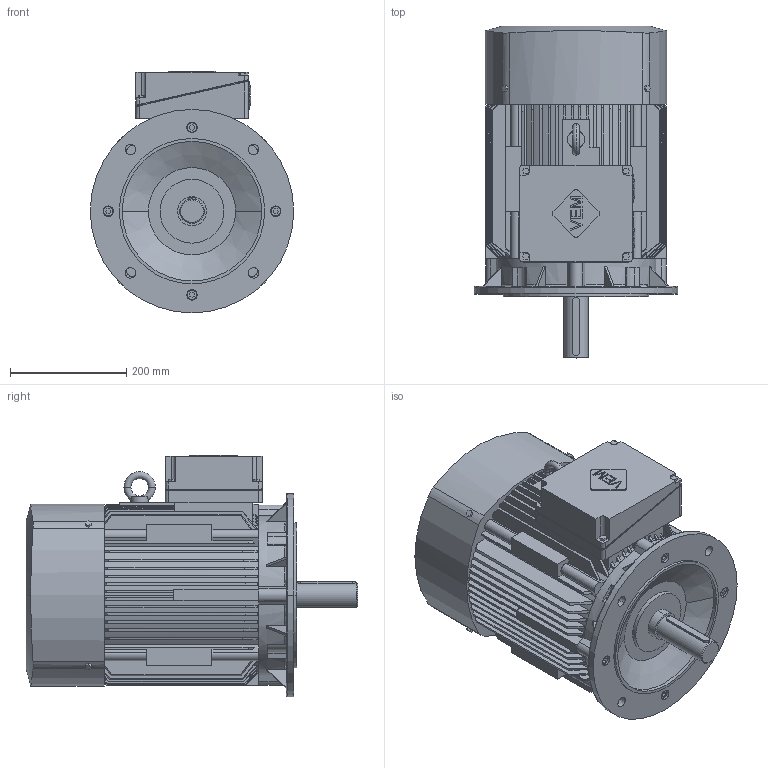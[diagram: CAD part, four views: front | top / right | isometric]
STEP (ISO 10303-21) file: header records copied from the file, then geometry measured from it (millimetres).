
FILE_DESCRIPTION(('STEP AP214'),'1');
FILE_NAME('cctmp_630251A4-ADAD-4F3D-811E-965CA24467E0_2026_02_10_10_59_17_0387..stp','2026-02-10T09:59:17',('VEM motors GmbH'),('CADClick - www.CADClick.com'),'Spatial InterOp 3D postprocessed',' ','unknown authorization');
FILE_SCHEMA(('AUTOMOTIVE_DESIGN'));
Length unit declared in the file: millimetre
Products named in the file (1): 2026_02_10_10_59_17_0387
Bounding box: 350 x 570.75 x 416 mm (x, y, z)
Volume: 35048316.7 mm3; surface area: 1417009.1 mm2
Topology: 1 solids, 1 shells, 750 faces, 2108 edges, 1394 vertices
Faces by surface type: plane 440, cylinder 168, cone 112, torus 26, bspline 4
Entity records: 30389 total; most frequent: CARTESIAN_POINT 9199, ORIENTED_EDGE 4216, DIRECTION 3720, EDGE_CURVE 2108, VERTEX_POINT 1394, LINE 1246, VECTOR 1246, AXIS2_PLACEMENT_3D 1237
